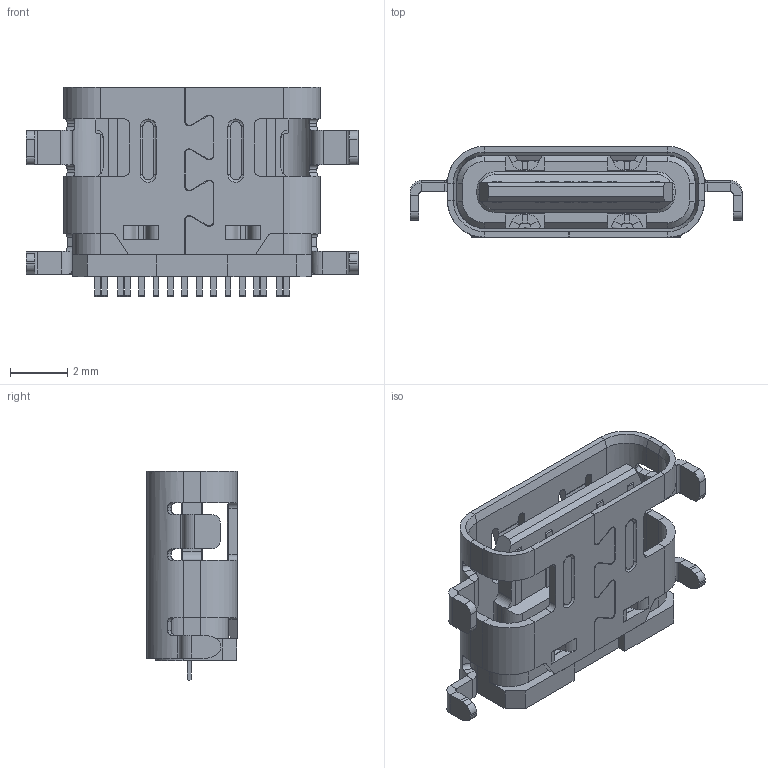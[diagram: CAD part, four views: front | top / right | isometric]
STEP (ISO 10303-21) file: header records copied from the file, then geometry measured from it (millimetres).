
FILE_DESCRIPTION(/* description */ (''),/* implementation_level */ '2;1');
FILE_NAME(/* name */ 'CF 16P 沉板1.6带弹片 带凸筋 3D_stp.stp',/* time_stamp */ '2026-03-17T11:42:33+08:00',/* author */ (''),/* organization */ (''),/* preprocessor_version */ 'ST-DEVELOPER v16',/* originating_system */ 'SIEMENS PLM Software NX 10.0',/* authorisation */ '');
FILE_SCHEMA (('AP203_CONFIGURATION_CONTROLLED_3D_DESIGN_OF_MECHANICAL_PARTS_AND_ASSEMBLIES_MIM_LF { 1 0 10303 403 2 1 2}'));
Length unit declared in the file: millimetre
Products named in the file (1): Admi2224D5EAytvi
Bounding box: 11.55 x 3.16 x 7.28 mm (x, y, z)
Volume: 92.6 mm3; surface area: 420.5 mm2
Topology: 1 solids, 1 shells, 778 faces, 2111 edges, 1336 vertices
Faces by surface type: plane 570, cylinder 178, cone 18, torus 8, bspline 4
Entity records: 24709 total; most frequent: CARTESIAN_POINT 4792, ORIENTED_EDGE 4222, DIRECTION 4029, EDGE_CURVE 2111, LINE 1647, VECTOR 1647, VERTEX_POINT 1336, AXIS2_PLACEMENT_3D 1191
